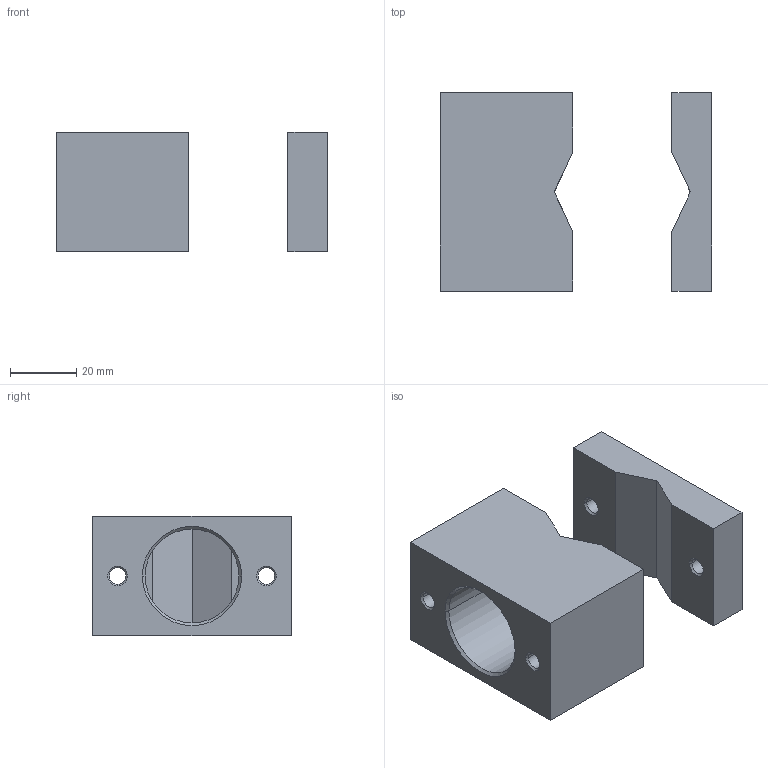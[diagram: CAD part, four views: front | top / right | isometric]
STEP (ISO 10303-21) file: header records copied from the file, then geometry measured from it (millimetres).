
FILE_DESCRIPTION( ( '' ), '1' );
FILE_NAME( '//partserver001.servicenet/client_exchange/iodir/jobs/output/wkb8808383_no0/STEP/e11037_2_03.stp', '2007-12-14T06:50:54', ( '' ), ( '' ), ' ', ' ', ' ' );
FILE_SCHEMA( ( 'CONFIG_CONTROL_DESIGN' ) );
Length unit declared in the file: millimetre
Products named in the file (2): 1; 2
Bounding box: 82 x 60 x 36 mm (x, y, z)
Volume: 80286.6 mm3; surface area: 21988.7 mm2
Topology: 2 solids, 2 shells, 52 faces, 125 edges, 76 vertices
Faces by surface type: cone 20, plane 20, cylinder 12
Entity records: 1609 total; most frequent: DIRECTION 281, CARTESIAN_POINT 255, ORIENTED_EDGE 250, EDGE_CURVE 125, AXIS2_PLACEMENT_3D 102, LINE 77, VECTOR 77, VERTEX_POINT 76
